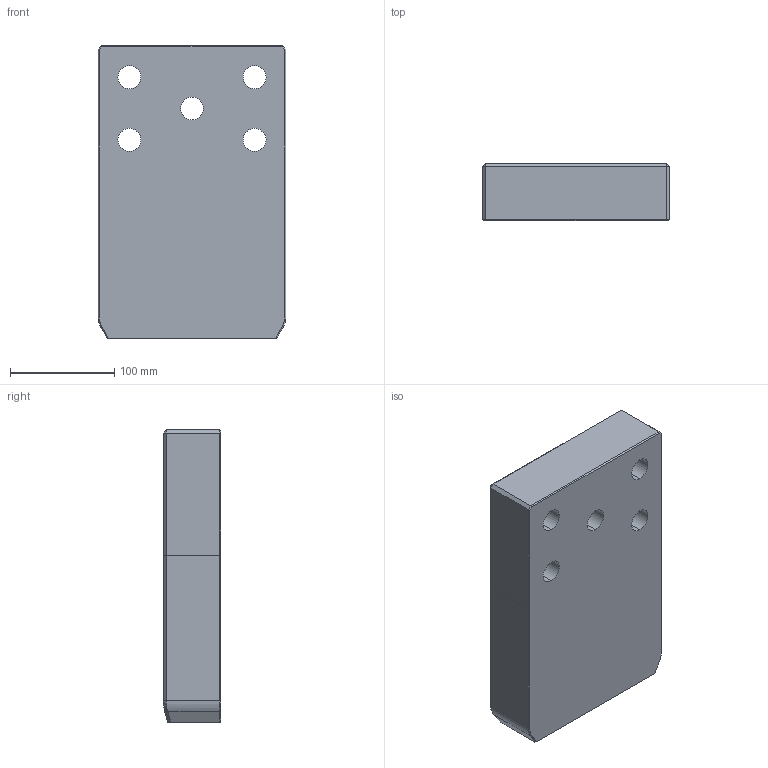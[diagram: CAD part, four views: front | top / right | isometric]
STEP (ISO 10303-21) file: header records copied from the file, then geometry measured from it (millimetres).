
FILE_DESCRIPTION((''),'2;1');
FILE_NAME('','2010-09-08T12:59:41+09:00',('misumi'),(''),'M/STEP i/f 1R2-14','CADmeister v5.1','');
FILE_SCHEMA(('AUTOMOTIVE_DESIGN'));
Length unit declared in the file: millimetre
Products named in the file (1): OGP180-280
Bounding box: 180 x 55 x 280 mm (x, y, z)
Volume: 2647343.6 mm3; surface area: 164148 mm2
Topology: 1 solids, 1 shells, 55 faces, 135 edges, 83 vertices
Faces by surface type: plane 32, cylinder 15, bspline 6, cone 2
Entity records: 1986 total; most frequent: CARTESIAN_POINT 611, ORIENTED_EDGE 260, DIRECTION 250, EDGE_CURVE 130, LINE 84, VECTOR 84, AXIS2_PLACEMENT_3D 83, VERTEX_POINT 78
